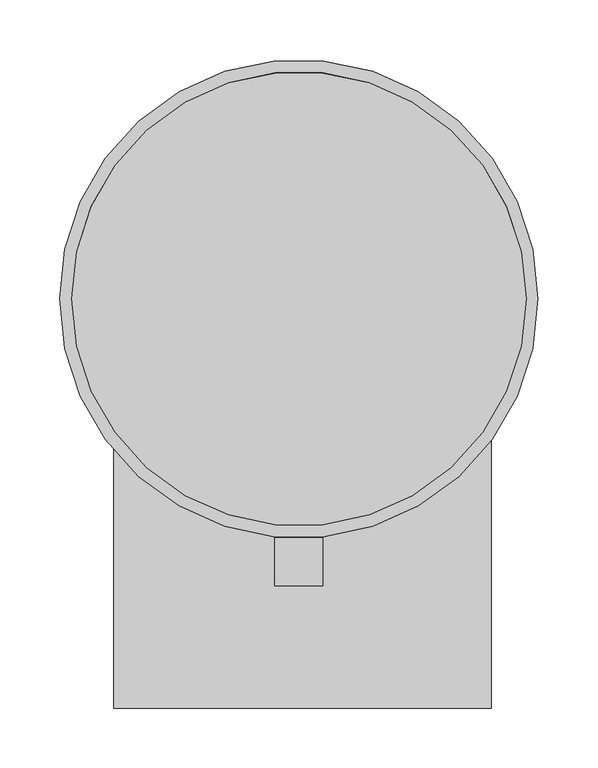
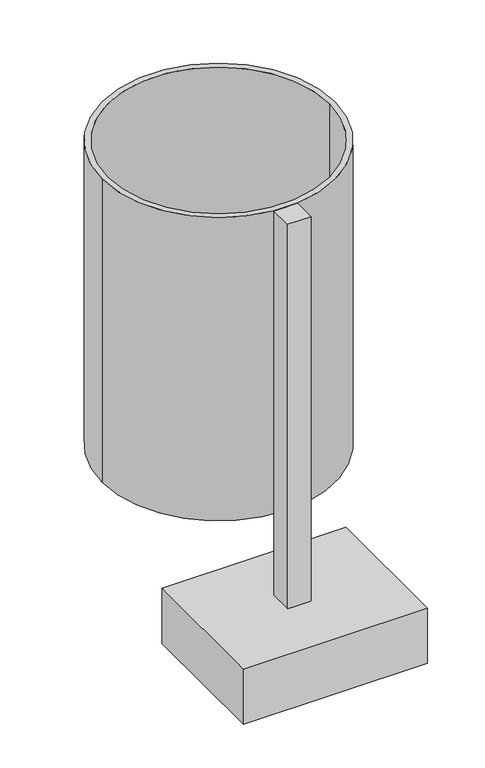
"""IFC4 building model written with IfcOpenShell, lengths in millimetres: furniture geometry, Fixierte Ausstattung Abfalleimer : Abfalleimer."""

import ifcopenshell
import ifcopenshell.guid

model = None  # the IFC model being written
_history = None  # IfcOwnerHistory: only IFC2X3 demands one
_inside = {}  # id of a spatial element -> (the spatial element, [elements in it])
_under = {}  # id of a project, library or spatial element -> (it, [spatial elements below it])
_declared = {}  # id of a project -> (the project, [libraries it declares])
_typed = {}  # id of a type object -> (the type object, [elements of that type])
_made_of = {}  # id of a material, layer set ... -> (it, [elements and type objects made of it])


def new_model(schema):
    """Start an empty IFC model of exactly this schema.

    Asked for "IFC4X3", IfcOpenShell would pick the latest addendum, in which some entities
    have other attributes; the version numbers below select the first issue.
    IFC2X3 requires an IfcOwnerHistory on every rooted entity: one is made here for all.
    """
    global model, _history
    if schema == "IFC4X3":
        model = ifcopenshell.file(schema_version=(4, 3, 0, 0))
    else:
        model = ifcopenshell.file(schema=schema)
    _inside.clear()
    _under.clear()
    _declared.clear()
    _typed.clear()
    _made_of.clear()
    _history = None
    if model.schema == "IFC2X3":
        org = make("IfcOrganization", Name="unknown")
        user = make(
            "IfcPersonAndOrganization",
            ThePerson=make("IfcPerson", FamilyName="unknown"),
            TheOrganization=org,
        )
        app = make(
            "IfcApplication",
            ApplicationDeveloper=org,
            Version="unknown",
            ApplicationFullName="unknown",
            ApplicationIdentifier="unknown",
        )
        _history = make(
            "IfcOwnerHistory",
            OwningUser=user,
            OwningApplication=app,
            ChangeAction="ADDED",
            CreationDate=0,
        )
    return model


def make(cls, **values):
    """One entity of the class cls with the attributes given. An attribute that is None is left unset."""
    return model.create_entity(
        cls, **{name: value for name, value in values.items() if value is not None}
    )


def rooted(cls, **values):
    """An entity with a GlobalId (a new one), such as an element, a storey or a relation."""
    return make(cls, GlobalId=ifcopenshell.guid.new(), OwnerHistory=_history, **values)


def si_unit(unit_type, name, prefix=None):
    """IfcSIUnit, for example si_unit("LENGTHUNIT", "METRE", prefix="MILLI")."""
    return make("IfcSIUnit", UnitType=unit_type, Prefix=prefix, Name=name)


def assignment(units):
    """IfcUnitAssignment: the units of a project."""
    return None if units is None else make("IfcUnitAssignment", Units=units)


def point(xyz):
    """IfcCartesianPoint."""
    return None if xyz is None else make("IfcCartesianPoint", Coordinates=xyz)


def direction(xyz):
    """IfcDirection."""
    return None if xyz is None else make("IfcDirection", DirectionRatios=xyz)


def frame(location, z_axis=None, x_axis=None):
    """IfcAxis2Placement3D, a coordinate frame: its origin and axes. An axis left out is left unset."""
    return make(
        "IfcAxis2Placement3D",
        Location=point(location),
        Axis=direction(z_axis),
        RefDirection=direction(x_axis),
    )


def origin():
    """The frame at (0, 0, 0) with its axes left unset."""
    return frame((0.0, 0.0, 0.0))


def origin_with_axes():
    """The frame at (0, 0, 0) with the z axis (0, 0, 1) and the x axis (1, 0, 0) written out."""
    return frame((0.0, 0.0, 0.0), z_axis=(0.0, 0.0, 1.0), x_axis=(1.0, 0.0, 0.0))


def place(relative_to, where):
    """IfcLocalPlacement: puts the frame where relative to a parent placement (None: the world)."""
    return make(
        "IfcLocalPlacement", PlacementRelTo=relative_to, RelativePlacement=where
    )


def context(
    kind, dimensions, precision=None, world=None, true_north=None, identifier=None
):
    """IfcGeometricRepresentationContext, for example the 3D "Model" context."""
    return make(
        "IfcGeometricRepresentationContext",
        ContextIdentifier=identifier,
        ContextType=kind,
        CoordinateSpaceDimension=dimensions,
        Precision=precision,
        WorldCoordinateSystem=world,
        TrueNorth=true_north,
    )


def project(units=None, contexts=None):
    """IfcProject with its units and contexts."""
    return rooted(
        "IfcProject",
        Name="project",
        RepresentationContexts=contexts,
        UnitsInContext=assignment(units),
    )


def spatial(cls, under=None, at=None, **own):
    """A site, building, storey or space (cls), placed at a placement, below another one or the project."""
    s = rooted(cls, ObjectPlacement=at, **own)
    if under is not None:
        _under.setdefault(under.id(), (under, []))[1].append(s)
    return s


def polyline(points):
    """IfcPolyline through the points."""
    return make("IfcPolyline", Points=[point(p) for p in points])


def circle_curve(where, radius):
    """IfcCircle in the frame where."""
    return make("IfcCircle", Position=where, Radius=radius)


def outline(outer, holes=None, kind="AREA"):
    """IfcArbitraryClosedProfileDef: a profile drawn as a closed curve; with holes, ...WithVoids."""
    if holes is None:
        return make("IfcArbitraryClosedProfileDef", ProfileType=kind, OuterCurve=outer)
    return make(
        "IfcArbitraryProfileDefWithVoids",
        ProfileType=kind,
        OuterCurve=outer,
        InnerCurves=holes,
    )


def extrude(swept, where, along, depth):
    """IfcExtrudedAreaSolid: the profile swept, set in the frame where, extruded along a direction by depth."""
    return make(
        "IfcExtrudedAreaSolid",
        SweptArea=swept,
        Position=where,
        ExtrudedDirection=direction(along),
        Depth=depth,
    )


def shape(context_of_items, identifier, shape_type, items):
    """IfcShapeRepresentation: the items that make up one representation, for example the "Body"."""
    return make(
        "IfcShapeRepresentation",
        ContextOfItems=context_of_items,
        RepresentationIdentifier=identifier,
        RepresentationType=shape_type,
        Items=items,
    )


def source(mapping_origin, context_of_items, identifier, shape_type, items):
    """IfcRepresentationMap: a shape defined once, which mapped items show again and again."""
    return make(
        "IfcRepresentationMap",
        MappingOrigin=mapping_origin,
        MappedRepresentation=shape(context_of_items, identifier, shape_type, items),
    )


def transform(
    local_origin,
    x_axis=None,
    y_axis=None,
    z_axis=None,
    scale=None,
    scale2=None,
    scale3=None,
    uniform=True,
):
    """IfcCartesianTransformationOperator3D, or its non-uniform kind. x_axis, y_axis, z_axis: its Axis1, 2, 3."""
    if uniform:
        return make(
            "IfcCartesianTransformationOperator3D",
            Axis1=direction(x_axis),
            Axis2=direction(y_axis),
            LocalOrigin=point(local_origin),
            Scale=scale,
            Axis3=direction(z_axis),
        )
    return make(
        "IfcCartesianTransformationOperator3DnonUniform",
        Axis1=direction(x_axis),
        Axis2=direction(y_axis),
        LocalOrigin=point(local_origin),
        Scale=scale,
        Axis3=direction(z_axis),
        Scale2=scale2,
        Scale3=scale3,
    )


def mapped(mapping_source, mapping_target):
    """IfcMappedItem: shows the shape of a source again, moved by a transform."""
    return make(
        "IfcMappedItem", MappingSource=mapping_source, MappingTarget=mapping_target
    )


def made_of(thing, what):
    """Note that an element or type object is made of a material, layer set ...; save() writes the relation."""
    if what is not None:
        _made_of.setdefault(what.id(), (what, []))[1].append(thing)
    return thing


def element(
    cls,
    number,
    at=None,
    inside=None,
    cuts=None,
    type_object=None,
    material=None,
    context=None,
    identifier="Body",
    shape_type=None,
    held_by="IfcProductDefinitionShape",
    body=None,
    shapes=None,
    **own,
):
    """One element of the class cls, such as IfcWall. Its Tag is "e" and its number.

    at: its placement. inside: the storey or other place that contains it. cuts: it is an
    opening in that element (IfcRelVoidsElement). A single representation is given by context,
    identifier, shape_type and body (its items); several are given by shapes. held_by: the class
    of the entity that holds the representations. save() writes the other relations.
    """
    e = rooted(cls, Tag="e%d" % number, ObjectPlacement=at, **own)
    if body is not None:
        shapes = [shape(context, identifier, shape_type, body)]
    if shapes is not None:
        e.Representation = make(held_by, Representations=shapes)
    if inside is not None:
        _inside.setdefault(inside.id(), (inside, []))[1].append(e)
    if cuts is not None:
        rooted(
            "IfcRelVoidsElement", RelatingBuildingElement=cuts, RelatedOpeningElement=e
        )
    if type_object is not None:
        _typed.setdefault(type_object.id(), (type_object, []))[1].append(e)
    return made_of(e, material)


def aggregate(whole, parts):
    """IfcRelAggregates: a whole, such as a stair, and the parts it consists of."""
    return rooted("IfcRelAggregates", RelatingObject=whole, RelatedObjects=parts)


def save(model, path):
    """Write the relations noted so far, then the file.

    IfcRelAggregates (storeys below a building ...), IfcRelContainedInSpatialStructure (elements
    in a storey), IfcRelDefinesByType, IfcRelAssociatesMaterial and IfcRelDeclares: one each for
    every whole, place, type object, material and project.
    """
    for whole, parts in _under.values():
        aggregate(whole, parts)
    for where, things in _inside.values():
        rooted(
            "IfcRelContainedInSpatialStructure",
            RelatedElements=things,
            RelatingStructure=where,
        )
    for kind, things in _typed.values():
        rooted("IfcRelDefinesByType", RelatedObjects=things, RelatingType=kind)
    for what, things in _made_of.values():
        rooted("IfcRelAssociatesMaterial", RelatedObjects=things, RelatingMaterial=what)
    for by, libraries in _declared.values():
        rooted("IfcRelDeclares", RelatingContext=by, RelatedDefinitions=libraries)
    model.write(path)


def plane_surface(at):
    """IfcPlane: the flat surface through the origin of the frame at, square to its z axis."""
    return make("IfcPlane", Position=at)


def cylinder_surface(at, radius):
    """IfcCylindricalSurface: all points at the distance radius from the z axis of the frame at."""
    return make("IfcCylindricalSurface", Position=at, Radius=radius)


def revolved_surface(curve, axis_point, axis_direction):
    """IfcSurfaceOfRevolution: the curve turned about the line through axis_point along axis_direction."""
    return make(
        "IfcSurfaceOfRevolution",
        SweptCurve=make("IfcArbitraryOpenProfileDef", ProfileType="CURVE", Curve=curve),
        AxisPosition=make("IfcAxis1Placement", Location=point(axis_point), Axis=direction(axis_direction)),
    )


def advanced_brep(points, edges, surfaces, faces):
    """IfcAdvancedBrep: a solid bounded by faces that lie on surfaces and meet in shared edges.

    An edge is (start, end): straight between two places in points (the first is 0);
    or (start, end, curve); or (start, end, curve, False) where it runs against its curve.
    A face is (place in surfaces, loops), or (place, loops, False) where it looks against
    its surface's normal. A loop lists edges by number (the first is 1), with a minus sign
    where the edge is run from its end to its start. The first loop is the outer one.
    """
    corners = [point(p) for p in points]
    vertices = [make("IfcVertexPoint", VertexGeometry=c) for c in corners]
    made = []
    for start, end, *more in edges:
        made.append(
            make(
                "IfcEdgeCurve",
                EdgeStart=vertices[start],
                EdgeEnd=vertices[end],
                EdgeGeometry=more[0] if more else make("IfcPolyline", Points=[corners[start], corners[end]]),
                SameSense=more[1] if len(more) > 1 else True,
            )
        )
    hull = []
    for where, loops, *sense in faces:
        bounds = []
        for j, loop in enumerate(loops):
            ring = [make("IfcOrientedEdge", EdgeElement=made[abs(k) - 1], Orientation=k > 0) for k in loop]
            bounds.append(
                make(
                    "IfcFaceOuterBound" if j == 0 else "IfcFaceBound",
                    Bound=make("IfcEdgeLoop", EdgeList=ring),
                    Orientation=True,
                )
            )
        hull.append(make("IfcAdvancedFace", Bounds=bounds, FaceSurface=surfaces[where], SameSense=sense[0] if sense else True))
    return make("IfcAdvancedBrep", Outer=make("IfcClosedShell", CfsFaces=hull))


def furniture_c1f0b13a(model_context):
    return source(origin(), model_context, "Body", "SolidModel", [
        extrude(outline(polyline([(160.7652937, -100.3954514), (160.7652937, -342.2825772), (-155.0, -342.2825772), (-155.0, -100.3954514), (160.7652937, -100.3954514)])), frame((0.0, 0.0, -97.4391651), z_axis=(0.0, 0.0, 1.0), x_axis=(1.0, 0.0, 0.0)), (0.0, 0.0, 1.0), 100.0),
        advanced_brep(
        [(-200.0, 0.0, 700.0), (200.0, 0.0, 700.0), (190.0, 0.0, 700.0), (-190.0, 0.0, 700.0), (-200.0, 0.0, 150.0), (200.0, 0.0, 150.0), (-190.0, 0.0, 164.2220205), (190.0, 0.0, 164.2220205)],
        [
            (0, 1, circle_curve(frame((0.0, 0.0, 700.0), z_axis=(0.0, 0.0, 1.0), x_axis=(1.0, 0.0, 0.0)), 200.0)),
            (1, 0, circle_curve(frame((0.0, 0.0, 700.0), z_axis=(0.0, 0.0, 1.0), x_axis=(1.0, 0.0, 0.0)), 200.0)),
            (2, 3, circle_curve(frame((0.0, 0.0, 700.0), z_axis=(0.0, 0.0, -1.0), x_axis=(1.0, 0.0, 0.0)), 190.0)),
            (3, 2, circle_curve(frame((0.0, 0.0, 700.0), z_axis=(0.0, 0.0, -1.0), x_axis=(1.0, 0.0, 0.0)), 190.0)),
            (4, 5, circle_curve(frame((0.0, 0.0, 150.0), z_axis=(0.0, 0.0, -1.0), x_axis=(1.0, 0.0, 0.0)), 200.0)),
            (5, 4, circle_curve(frame((0.0, 0.0, 150.0), z_axis=(0.0, 0.0, -1.0), x_axis=(1.0, 0.0, 0.0)), 200.0)),
            (1, 5),
            (4, 0),
            (6, 7, circle_curve(frame((0.0, 0.0, 164.2220205), z_axis=(0.0, 0.0, 1.0), x_axis=(1.0, 0.0, 0.0)), 190.0)),
            (7, 6, circle_curve(frame((0.0, 0.0, 164.2220205), z_axis=(0.0, 0.0, 1.0), x_axis=(1.0, 0.0, 0.0)), 190.0)),
            (7, 2),
            (3, 6),
        ],
        [
            plane_surface(frame((200.0, 0.0, 700.0), z_axis=(0.0, 0.0, 1.0), x_axis=(0.0, -1.0, 0.0))),
            plane_surface(frame((200.0, 0.0, 150.0), z_axis=(0.0, 0.0, -1.0), x_axis=(0.0, 1.0, 0.0))),
            cylinder_surface(frame((0.0, 0.0, 150.0), z_axis=(0.0, 0.0, 1.0), x_axis=(1.0, 0.0, 0.0)), 200.0),
            plane_surface(frame((190.0, 0.0, 164.2220205), z_axis=(0.0, 0.0, 1.0), x_axis=(0.0, 1.0, 0.0))),
            revolved_surface(polyline([(190.0, 0.0, 700.0), (190.0, 0.0, 164.2220205)]), (0.0, 0.0, 164.2220205), (0.0, 0.0, 1.0)),
        ],
        [
            (0, [[1, 2], [3, 4]]),
            (1, [[5, 6]]),
            (2, [[7, -5, 8, -2]]),
            (2, [[-8, -6, -7, -1]]),
            (3, [[9, 10]]),
            (4, [[11, -4, 12, -10]]),
            (4, [[-12, -3, -11, -9]]),
        ],
    ),
        extrude(outline(polyline([(20.0, -240.0), (-20.0, -240.0), (-20.0, -200.0), (20.0, -200.0), (20.0, -240.0)])), origin_with_axes(), (0.0, 0.0, 1.0), 700.0),
    ])


if __name__ == "__main__":
    model = new_model("IFC4")
    model_context = context("Model", 3, world=origin())
    ifc_project = project(units=[si_unit("LENGTHUNIT", "METRE", prefix="MILLI")], contexts=[model_context])
    site = spatial("IfcSite", under=ifc_project)
    building = spatial("IfcBuilding", under=site)
    placement = place(None, origin())
    furniture_shape = furniture_c1f0b13a(model_context)
    element("IfcFurniture", 1, ObjectType="Fixierte Ausstattung Abfalleimer : Abfalleimer", at=placement, inside=building, context=model_context, shape_type="MappedRepresentation", body=[
        mapped(furniture_shape, transform((0.0, 0.0, 0.0), x_axis=(1.0, 0.0, 0.0), y_axis=(0.0, 1.0, 0.0), z_axis=(0.0, 0.0, 1.0))),
    ])
    save(model, "model.ifc")
